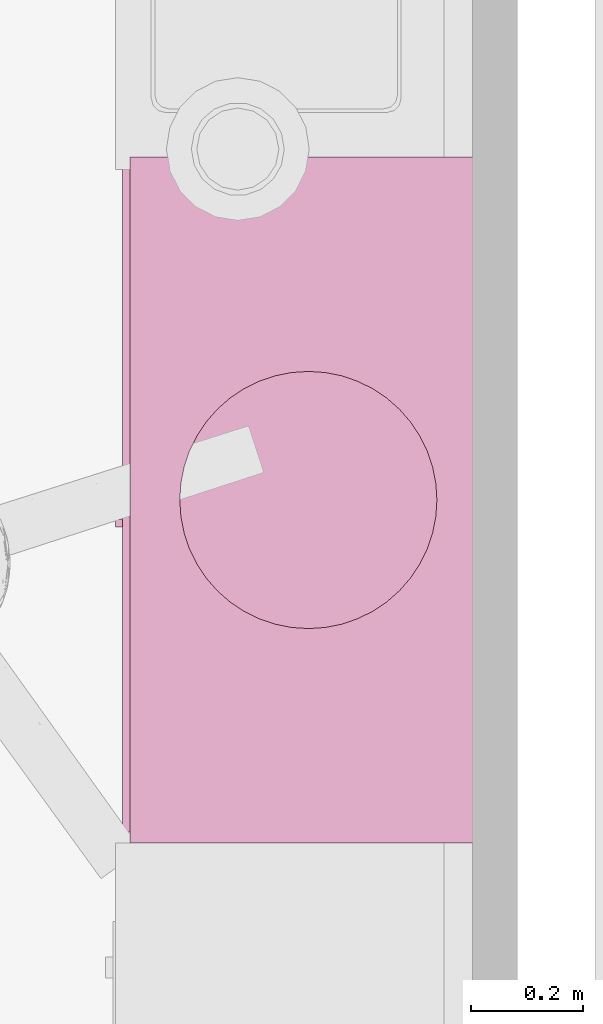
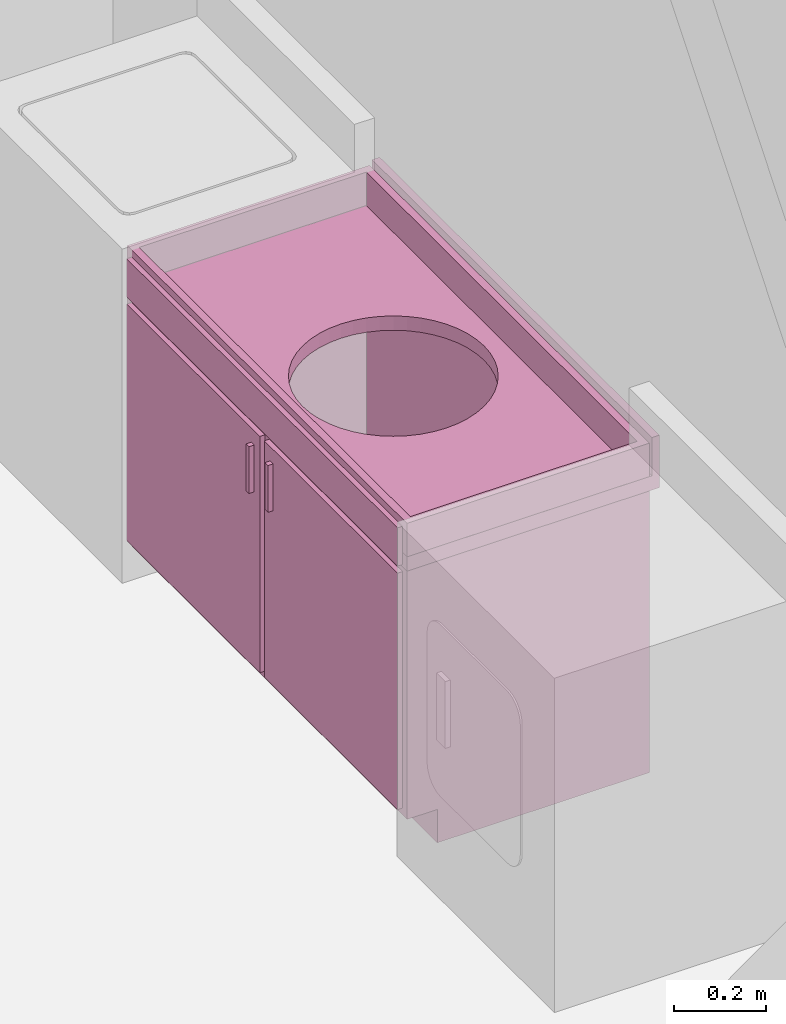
# One storey, part 23 of 28: 2 furnishings, 1 opening.
"""IFC2X3 building model written with IfcOpenShell, lengths in feet."""

from ifc_helpers import new_model, entity, si_unit, converted_unit, derived_unit, direction, frame, frame_2d, origin, place, context, subcontext, project, spatial, polyline, circle, outline, extrude, faceted_brep, source, transform, mapped, material, material_list, type_object, type_shapes, element, save


model = new_model("IFC2X3")

# Units and contexts
model_context = context("Model", 3, precision=0.0001, world=origin(), true_north=direction((6.12303176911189e-17, 1.0)))
body_context = subcontext(model_context, "Body", "Model", "MODEL_VIEW")
ifc_project = project(units=[converted_unit("LENGTHUNIT", "FOOT", entity("IfcRatioMeasure", 0.3048), si_unit("LENGTHUNIT", "METRE"), dimensions=[1, 0, 0, 0, 0, 0, 0]), converted_unit("AREAUNIT", "SQUARE FOOT", entity("IfcRatioMeasure", 0.09290304), si_unit("AREAUNIT", "SQUARE_METRE"), dimensions=[2, 0, 0, 0, 0, 0, 0]), converted_unit("VOLUMEUNIT", "CUBIC FOOT", entity("IfcRatioMeasure", 0.028316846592), si_unit("VOLUMEUNIT", "CUBIC_METRE"), dimensions=[3, 0, 0, 0, 0, 0, 0]), converted_unit("PLANEANGLEUNIT", "DEGREE", entity("IfcRatioMeasure", 0.0174532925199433), si_unit("PLANEANGLEUNIT", "RADIAN"), dimensions=[0, 0, 0, 0, 0, 0, 0]), si_unit("MASSUNIT", "GRAM", prefix="KILO"), derived_unit("MASSDENSITYUNIT", [(si_unit("MASSUNIT", "GRAM", prefix="KILO"), 1), (si_unit("LENGTHUNIT", "METRE"), -3)]), si_unit("TIMEUNIT", "SECOND"), si_unit("FREQUENCYUNIT", "HERTZ"), si_unit("THERMODYNAMICTEMPERATUREUNIT", "DEGREE_CELSIUS"), derived_unit("THERMALTRANSMITTANCEUNIT", [(si_unit("MASSUNIT", "GRAM", prefix="KILO"), 1), (si_unit("THERMODYNAMICTEMPERATUREUNIT", "KELVIN"), -1), (si_unit("TIMEUNIT", "SECOND"), -3)]), derived_unit("VOLUMETRICFLOWRATEUNIT", [(si_unit("LENGTHUNIT", "METRE"), 3), (si_unit("TIMEUNIT", "SECOND"), -1)]), si_unit("ELECTRICCURRENTUNIT", "AMPERE"), si_unit("ELECTRICVOLTAGEUNIT", "VOLT"), si_unit("POWERUNIT", "WATT"), si_unit("FORCEUNIT", "NEWTON"), si_unit("ILLUMINANCEUNIT", "LUX"), si_unit("LUMINOUSFLUXUNIT", "LUMEN"), si_unit("LUMINOUSINTENSITYUNIT", "CANDELA"), derived_unit("USERDEFINED", [(si_unit("MASSUNIT", "GRAM", prefix="KILO"), -1), (si_unit("LENGTHUNIT", "METRE"), -2), (si_unit("TIMEUNIT", "SECOND"), 3), (si_unit("LUMINOUSFLUXUNIT", "LUMEN"), 1)]), derived_unit("LINEARVELOCITYUNIT", [(si_unit("LENGTHUNIT", "METRE"), 1), (si_unit("TIMEUNIT", "SECOND"), -1)]), si_unit("PRESSUREUNIT", "PASCAL"), derived_unit("USERDEFINED", [(si_unit("LENGTHUNIT", "METRE"), -2), (si_unit("MASSUNIT", "GRAM", prefix="KILO"), 1), (si_unit("TIMEUNIT", "SECOND"), -2)])], contexts=[model_context])

# Site, building, storey
site_placement = place(None, origin())
site = spatial("IfcSite", under=ifc_project, at=site_placement, Name="表面", CompositionType="ELEMENT")
building_placement = place(site_placement, origin())
building = spatial("IfcBuilding", under=site, at=building_placement, CompositionType="ELEMENT")
storey_placement = place(building_placement, frame((0.0, 0.0, 10.0)))
storey = spatial("IfcBuildingStorey", under=building, at=storey_placement, Name="Level 2", CompositionType="ELEMENT", Elevation=9.99999999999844)

# Furnishing
ifc_material_1 = material(Name="Cabinets")
ifc_material_2 = material(Name="Cabinets - Handles")
ifc_material_list_1 = material_list([ifc_material_1, ifc_material_2])
ifc_material_list_2 = material_list([ifc_material_1, ifc_material_2])
furniture_type_1 = type_object("IfcFurnitureType", Name="48\"", material=ifc_material_list_2)
shared_shape_1 = source(origin(), body_context, "Body", "Brep", [
    faceted_brep([(1.99897540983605, -1.9375, 2.87500000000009), (1.99897540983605, -1.9375, 0.291666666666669), (-1.87602459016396, -1.9375, 0.291666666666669), (-1.87602459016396, -1.9375, 2.87500000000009), (-1.93852459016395, -2.0, 2.87500000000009), (2.06147540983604, -2.0, 2.87500000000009), (-1.93852459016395, -2.0, 0.291666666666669), (2.06147540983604, -2.0, 0.291666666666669), (-1.87602459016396, -1.75, 0.291666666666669), (-1.87602459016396, -0.062499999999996, 0.291666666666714), (-1.87602459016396, -0.062499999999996, 2.87500000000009), (-1.93852459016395, 0.0, 2.87500000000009), (-1.93852459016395, 0.0, 0.0), (-1.93852459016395, -1.75, 0.0), (-1.93852459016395, -1.75, 0.291666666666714), (1.99897540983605, -0.0624999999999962, 0.291666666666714), (1.99897540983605, -0.0624999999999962, 2.87500000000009), (2.06147540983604, 0.0, 2.87500000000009), (2.06147540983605, 0.0, 0.0), (1.99897540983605, -1.75, 0.291666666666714), (2.06147540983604, -1.75, 0.291666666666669), (2.06147540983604, -1.75, 0.0)], [[[0, 1, 2, 3]], [[0, 3, 4, 5]], [[5, 4, 6, 7]], [[2, 1, 7, 6]], [[3, 2, 8, 9, 10]], [[4, 3, 10, 11]], [[6, 4, 11, 12, 13, 14]], [[2, 6, 14, 8]], [[10, 9, 15, 16]], [[11, 10, 16, 17]], [[12, 11, 17, 18]], [[1, 0, 16, 15, 19]], [[0, 5, 17, 16]], [[5, 7, 20, 21, 18, 17]], [[7, 1, 19, 20]], [[8, 19, 15, 9]], [[18, 21, 13, 12]], [[13, 21, 20, 19, 8, 14]]]),
    faceted_brep([(0.217725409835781, -2.08333333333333, 2.29166666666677), (0.176058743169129, -2.08333333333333, 2.29166666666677), (0.176058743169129, -2.08333333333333, 1.88244716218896), (0.217725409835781, -2.08333333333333, 1.88244716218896), (0.217725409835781, -2.04166666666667, 2.29166666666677), (0.176058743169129, -2.04166666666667, 2.29166666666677), (0.176058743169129, -2.04166666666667, 1.88244716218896), (0.217725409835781, -2.04166666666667, 1.88244716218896)], [[[0, 1, 2, 3]], [[1, 0, 4, 5]], [[2, 1, 5, 6]], [[3, 2, 6, 7]], [[0, 3, 7, 4]], [[4, 7, 6, 5]]]),
    faceted_brep([(-0.053107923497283, -2.04166666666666, 2.29166666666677), (-0.053107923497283, -2.04166666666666, 1.88244716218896), (-0.0947745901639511, -2.04166666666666, 1.88244716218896), (-0.0947745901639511, -2.04166666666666, 2.29166666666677), (-0.0947745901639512, -2.08333333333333, 2.29166666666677), (-0.0531079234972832, -2.08333333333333, 2.29166666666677), (-0.0947745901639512, -2.08333333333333, 1.88244716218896), (-0.0531079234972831, -2.08333333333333, 1.88244716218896)], [[[0, 1, 2, 3]], [[4, 5, 0, 3]], [[6, 4, 3, 2]], [[7, 6, 2, 1]], [[5, 7, 1, 0]], [[5, 4, 6, 7]]]),
    faceted_brep([(1.99897540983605, -0.0624999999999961, 0.354166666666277), (-1.87602459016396, -0.062499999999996, 0.354166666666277), (-1.87602459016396, -1.9375, 0.354166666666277), (1.99897540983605, -1.9375, 0.354166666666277), (1.99897540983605, -0.062499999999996, 0.291666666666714), (1.99897540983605, -1.9375, 0.291666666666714), (-1.87602459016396, -1.9375, 0.291666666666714), (-1.87602459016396, -0.062499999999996, 0.291666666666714)], [[[0, 1, 2, 3]], [[4, 5, 6, 7]], [[1, 0, 4, 7]], [[2, 1, 7, 6]], [[3, 2, 6, 5]], [[0, 3, 5, 4]]]),
    faceted_brep([(1.99897540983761, -2.04166666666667, 2.81250000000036), (-1.87602459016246, -2.04166666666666, 2.81250000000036), (-1.87602459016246, -2.04166666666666, 2.47916666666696), (1.99897540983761, -2.04166666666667, 2.47916666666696), (1.99897540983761, -2.0, 2.81250000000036), (-1.87602459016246, -2.0, 2.81250000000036), (-1.87602459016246, -2.0, 2.47916666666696), (1.99897540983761, -2.0, 2.47916666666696)], [[[0, 1, 2, 3]], [[1, 0, 4, 5]], [[2, 1, 5, 6]], [[3, 2, 6, 7]], [[0, 3, 7, 4]], [[4, 7, 6, 5]]]),
    faceted_brep([(0.0302254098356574, -2.0, 2.41666666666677), (0.0302254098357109, -2.0, 0.354166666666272), (-1.87602459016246, -2.0, 0.354166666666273), (-1.87602459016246, -2.0, 2.41666666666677), (-1.87602459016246, -2.04166666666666, 2.41666666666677), (0.0302254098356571, -2.04166666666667, 2.41666666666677), (-1.87602459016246, -2.04166666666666, 0.354166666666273), (0.0302254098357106, -2.04166666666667, 0.354166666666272)], [[[0, 1, 2, 3]], [[4, 5, 0, 3]], [[6, 4, 3, 2]], [[7, 6, 2, 1]], [[5, 7, 1, 0]], [[5, 4, 6, 7]]]),
    faceted_brep([(0.092725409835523, -2.04166666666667, 2.41666666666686), (1.99897540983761, -2.04166666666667, 2.41666666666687), (1.99897540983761, -2.0, 2.41666666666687), (0.0927254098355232, -2.0, 2.41666666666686), (0.0927254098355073, -2.04166666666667, 0.354166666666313), (0.0927254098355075, -2.0, 0.354166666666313), (1.99897540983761, -2.04166666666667, 0.354166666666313), (1.99897540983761, -2.0, 0.354166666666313)], [[[0, 1, 2, 3]], [[4, 0, 3, 5]], [[6, 4, 5, 7]], [[1, 6, 7, 2]], [[2, 7, 5, 3]], [[1, 0, 4, 6]]]),
])
type_shapes(furniture_type_1, [shared_shape_1])
furnishing_1_placement = place(storey_placement, frame((11.5848785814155, 1.69699410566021, 0.343749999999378), z_axis=(0.0, 0.0, 1.0), x_axis=(0.0, -1.0, 0.0)))
element("IfcFurnishingElement", 1, at=furnishing_1_placement, inside=storey, type_object=furniture_type_1, material=ifc_material_list_1, Name="Base Cabinet-Double Door Sink Unit:48\"", ObjectType="48\"", context=body_context, shape_type="MappedRepresentation", body=[
    mapped(shared_shape_1, transform((0.0, 0.0, 0.0), scale=1.0)),
])

# Furnishing, opening
ifc_material_3 = material(Name="Counter Top")
furniture_type_2 = type_object("IfcFurnitureType", Name="24\" Depth", material=ifc_material_3)
shared_shape_2 = source(origin(), body_context, "Body", "SweptSolid", [
    extrude(outline(polyline([(-0.194444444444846, -0.715277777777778), (0.26388888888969, -0.715277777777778), (0.26388888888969, -0.652777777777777), (-0.0694444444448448, -0.652777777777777), (-0.0694444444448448, 1.36805555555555), (-0.194444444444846, 1.36805555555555), (-0.194444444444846, -0.715277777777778)])), frame((-4.35519125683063, -0.715277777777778, 2.65277777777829), z_axis=(1.0, 0.0, 0.0), x_axis=(0.0, 0.0, 1.0)), (0.0, 0.0, 1.0), 4.0),
])
type_shapes(furniture_type_2, [shared_shape_2])
furnishing_2_placement = place(storey_placement, frame((11.6682119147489, -0.719672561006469, 0.343749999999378), z_axis=(0.0, 0.0, 1.0), x_axis=(0.0, -1.0, 0.0)))
furnishing_2 = element("IfcFurnishingElement", 2, at=furnishing_2_placement, inside=storey, type_object=furniture_type_2, material=ifc_material_3, Name="Vanity Counter Top w Round Sink Hole:24\" Depth", ObjectType="24\" Depth", context=body_context, shape_type="MappedRepresentation", body=[
    mapped(shared_shape_2, transform((0.0, 0.0, 0.0), scale=1.0)),
])
opening_placement = place(storey_placement, frame((11.6682119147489, -0.719672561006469, 10.3437499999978), z_axis=(0.0, 0.0, 1.0), x_axis=(-1.0, 0.0, 0.0)))
element("IfcOpeningElement", 3, at=opening_placement, cuts=furnishing_2, Name="Vanity Counter Top w Round Sink Hole:24\" Depth:1", ObjectType="Opening", context=body_context, shape_type="SweptSolid", body=[
    extrude(circle(Radius=0.749999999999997, at=frame_2d((0.0, 1.11022302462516e-15), x_axis=(1.0, 0.0))), frame((1.04166666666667, -2.35519125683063, -7.54166666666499), z_axis=(0.0, 0.0, 1.0), x_axis=(0.0, 1.0, 0.0)), (0.0, 0.0, 1.0), 0.125000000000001),
])

save(model, "model.ifc")
